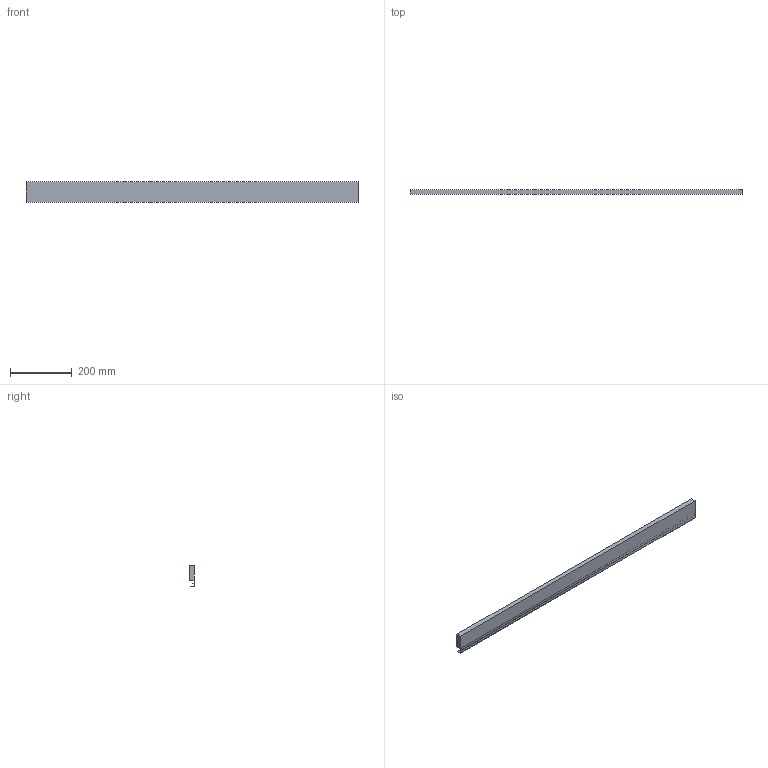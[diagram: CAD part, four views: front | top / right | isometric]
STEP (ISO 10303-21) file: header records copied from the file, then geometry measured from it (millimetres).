
FILE_DESCRIPTION (( 'STEP AP214' ), '1' );
FILE_NAME ('Innenschub-Blendenprofil_KAB1200_S16.step', '2010-09-23T12:26:54', ( 'grass' ), ( '' ), 'SwSTEP 2.0', 'SolidWorks 2010', '' );
FILE_SCHEMA (( 'AUTOMOTIVE_DESIGN' ));
Length unit declared in the file: millimetre
Products named in the file (1): Innenschub-Blendenprofil_KAB1200_S16
Bounding box: 1077 x 15.9 x 67.6 mm (x, y, z)
Volume: 893033.2 mm3; surface area: 213000.4 mm2
Topology: 1 solids, 1 shells, 17 faces, 42 edges, 28 vertices
Faces by surface type: plane 15, cylinder 2
Entity records: 534 total; most frequent: CARTESIAN_POINT 88, ORIENTED_EDGE 84, DIRECTION 82, EDGE_CURVE 42, LINE 38, VECTOR 38, VERTEX_POINT 28, AXIS2_PLACEMENT_3D 22
